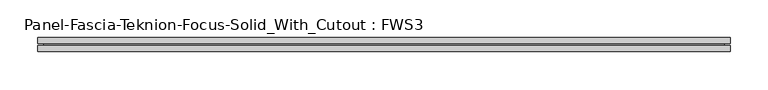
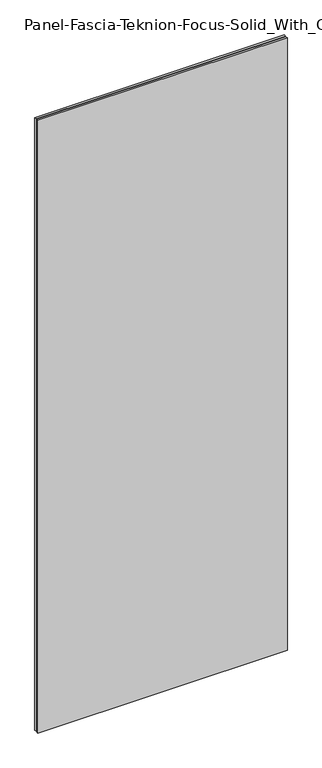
"""IFC4 building model written with IfcOpenShell, lengths in millimetres: proxy geometry, Panel-Fascia-Teknion-Focus-Solid_With_Cutout : FWS3."""

from ifc_helpers import new_model, si_unit, origin, place, context, project, spatial, faceted_brep, source, transform, mapped, element, save


def panel_fascia_teknion_focus_solid_with_cutout_fws3_29f18c5e(model_context):
    return source(origin(), model_context, "Body", "Brep", [
        faceted_brep([(457.2, -9.25, 2371.7000194), (457.2, -1.5, 2371.7000194), (-457.2, -1.5, 2371.7000194), (-457.2, -9.25, 2371.7000194), (457.2, 1.5, 2371.7000194), (457.2, 9.25, 2371.7000194), (-457.2, 9.25, 2371.7000194), (-457.2, 1.5, 2371.7000194), (457.2, -9.25, 0.0), (-457.2, -9.25, 0.0), (-457.2, -1.5, 0.0), (457.2, -1.5, 0.0), (-457.2, 1.5, 0.0), (-457.2, 9.25, 0.0), (457.2, 9.25, 0.0), (457.2, 1.5, 0.0), (-449.2, -1.5, 2363.7000194), (-449.2, -1.5, 8.0), (449.2, -1.5, 8.0), (449.2, -1.5, 2363.7000194), (-449.2, 1.5, 2363.7000194), (-449.2, 1.5, 8.0), (449.2, 1.5, 2363.7000194), (449.2, 1.5, 8.0)], [[[0, 1, 2, 3]], [[4, 5, 6, 7]], [[8, 9, 10, 11]], [[12, 13, 14, 15]], [[3, 9, 8, 0]], [[6, 13, 12, 7]], [[5, 14, 13, 6]], [[15, 14, 5, 4]], [[10, 9, 3, 2]], [[1, 11, 10, 2], [16, 17, 18, 19]], [[16, 20, 21, 17]], [[7, 12, 15, 4], [21, 20, 22, 23]], [[22, 19, 18, 23]], [[0, 8, 11, 1]], [[20, 16, 19, 22]], [[23, 18, 17, 21]]]),
    ])


if __name__ == "__main__":
    model = new_model("IFC4")
    model_context = context("Model", 3, world=origin())
    ifc_project = project(units=[si_unit("LENGTHUNIT", "METRE", prefix="MILLI")], contexts=[model_context])
    site = spatial("IfcSite", under=ifc_project)
    building = spatial("IfcBuilding", under=site)
    placement = place(None, origin())
    panel_fascia_teknion_focus_solid_with_cutout_fws3_shape = panel_fascia_teknion_focus_solid_with_cutout_fws3_29f18c5e(model_context)
    element("IfcBuildingElementProxy", 1, Name="Panel-Fascia-Teknion-Focus-Solid_With_Cutout : FWS3", ObjectType="Panel-Fascia-Teknion-Focus-Solid_With_Cutout : FWS3", at=placement, inside=building, context=model_context, shape_type="MappedRepresentation", body=[
        mapped(panel_fascia_teknion_focus_solid_with_cutout_fws3_shape, transform((0.0, 0.0, 0.0), x_axis=(1.0, 0.0, 0.0), y_axis=(0.0, 1.0, 0.0), z_axis=(0.0, 0.0, 1.0))),
    ])
    save(model, "model.ifc")
